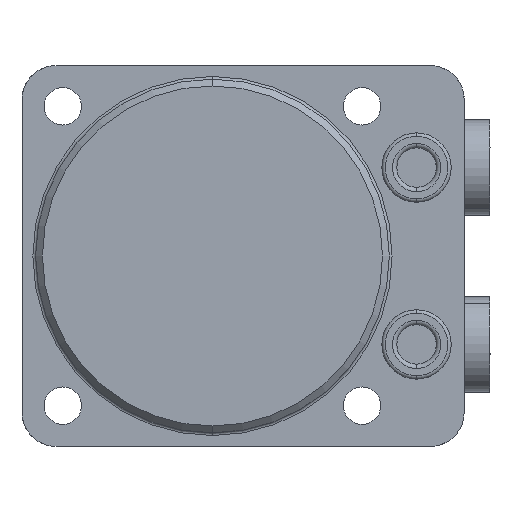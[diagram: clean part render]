
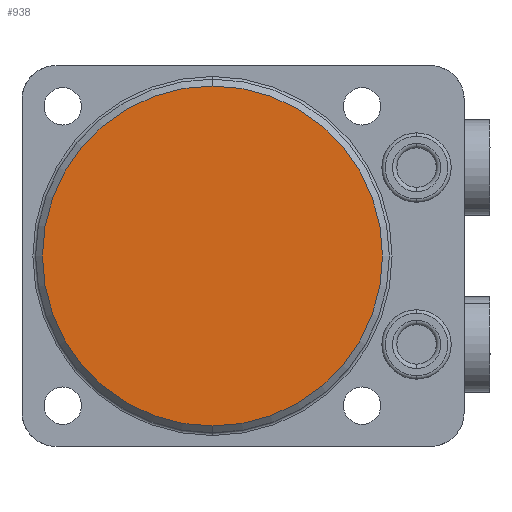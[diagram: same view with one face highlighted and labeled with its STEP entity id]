
A CAD part, front view. The second image highlights one B-rep face of the part: STEP entity #938.
In plain terms, the highlighted planar face has unit normal (0, -1, 0).
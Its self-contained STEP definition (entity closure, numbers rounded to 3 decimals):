
#687=PLANE('',#3562);
#938=ADVANCED_FACE('',(#1131),#687,.F.);
#1131=FACE_OUTER_BOUND('',#1312,.T.);
#1312=EDGE_LOOP('',(#2121,#2122));
#2121=ORIENTED_EDGE('',*,*,#2983,.T.);
#2122=ORIENTED_EDGE('',*,*,#2924,.T.);
#2620=VERTEX_POINT('',#5193);
#2621=VERTEX_POINT('',#5194);
#2924=EDGE_CURVE('',#2620,#2621,#3218,.T.);
#2983=EDGE_CURVE('',#2621,#2620,#3239,.T.);
#3218=CIRCLE('',#3529,25.);
#3239=CIRCLE('',#3561,25.);
#3529=AXIS2_PLACEMENT_3D('',#5192,#4250,#4251);
#3561=AXIS2_PLACEMENT_3D('',#5384,#4332,#4333);
#3562=AXIS2_PLACEMENT_3D('',#5385,#4334,#4335);
#4250=DIRECTION('',(0.,-1.,0.));
#4251=DIRECTION('',(0.,0.,1.));
#4332=DIRECTION('',(0.,-1.,0.));
#4333=DIRECTION('',(0.,0.,1.));
#4334=DIRECTION('',(0.,1.,0.));
#4335=DIRECTION('',(0.,0.,-1.));
#5192=CARTESIAN_POINT('',(0.,-33.,0.));
#5193=CARTESIAN_POINT('',(0.,-33.,-25.));
#5194=CARTESIAN_POINT('',(0.,-33.,25.));
#5384=CARTESIAN_POINT('',(0.,-33.,0.));
#5385=CARTESIAN_POINT('',(0.,-33.,0.));
